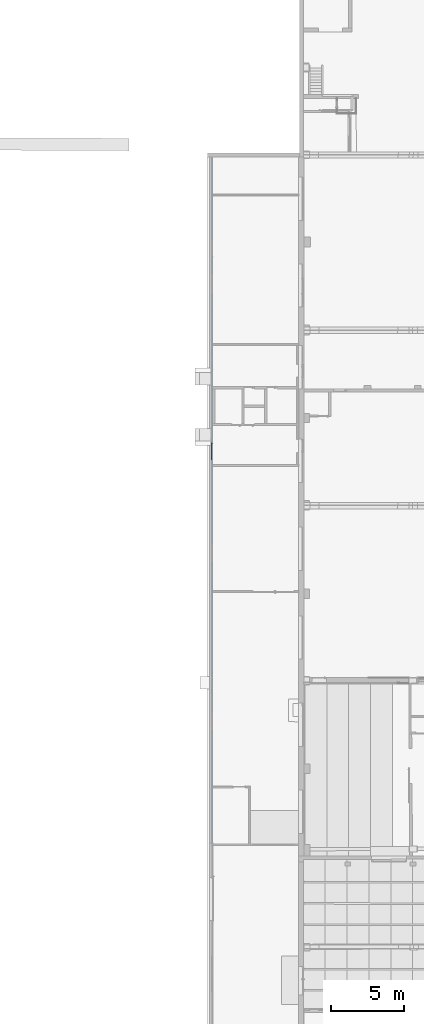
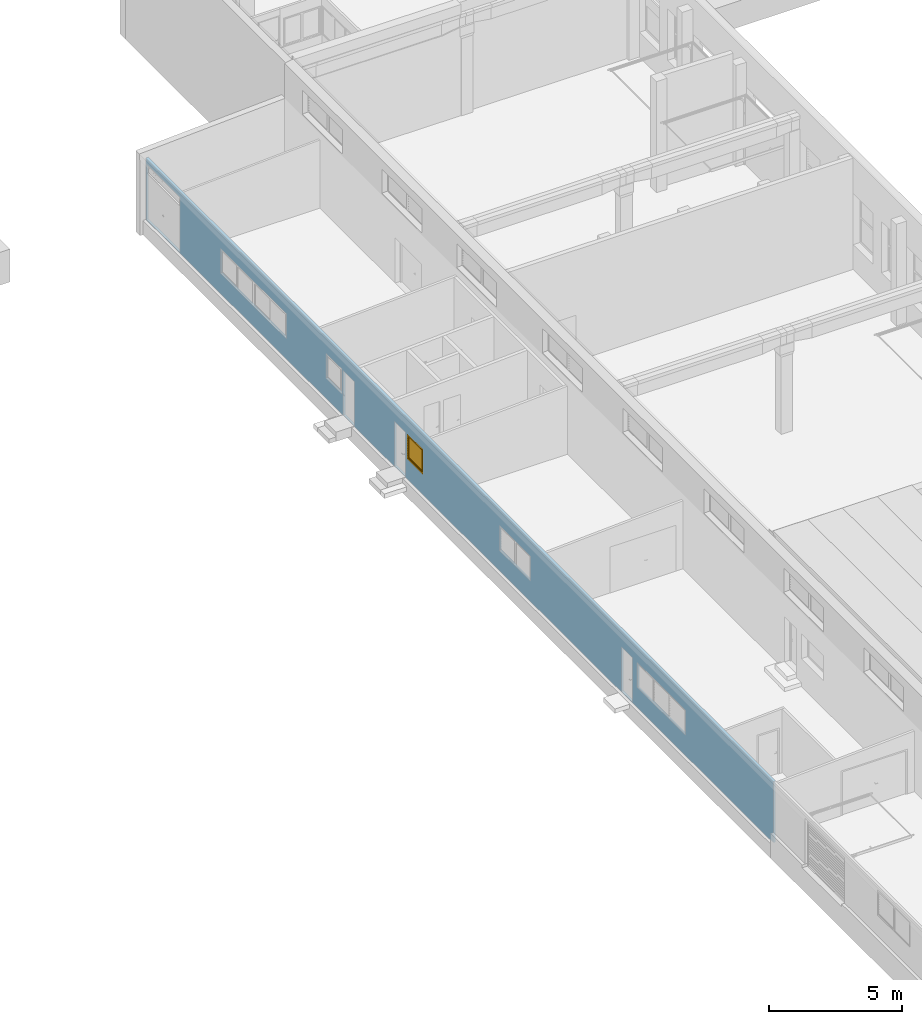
# One storey, part 103 of 301: 1 window, 9 openings, plus 1 element that does not belong to this part.
"""IFC2X3 building model written with IfcOpenShell, lengths in millimetres."""

import ifcopenshell
import ifcopenshell.guid

model = None  # the IFC model being written
_history = None  # IfcOwnerHistory: only IFC2X3 demands one
_inside = {}  # id of a spatial element -> (the spatial element, [elements in it])
_under = {}  # id of a project, library or spatial element -> (it, [spatial elements below it])
_declared = {}  # id of a project -> (the project, [libraries it declares])
_typed = {}  # id of a type object -> (the type object, [elements of that type])
_made_of = {}  # id of a material, layer set ... -> (it, [elements and type objects made of it])


def new_model(schema):
    """Start an empty IFC model of exactly this schema.

    Asked for "IFC4X3", IfcOpenShell would pick the latest addendum, in which some entities
    have other attributes; the version numbers below select the first issue.
    IFC2X3 requires an IfcOwnerHistory on every rooted entity: one is made here for all.
    """
    global model, _history
    if schema == "IFC4X3":
        model = ifcopenshell.file(schema_version=(4, 3, 0, 0))
    else:
        model = ifcopenshell.file(schema=schema)
    _inside.clear()
    _under.clear()
    _declared.clear()
    _typed.clear()
    _made_of.clear()
    _history = None
    if model.schema == "IFC2X3":
        org = make("IfcOrganization", Name="unknown")
        user = make(
            "IfcPersonAndOrganization",
            ThePerson=make("IfcPerson", FamilyName="unknown"),
            TheOrganization=org,
        )
        app = make(
            "IfcApplication",
            ApplicationDeveloper=org,
            Version="unknown",
            ApplicationFullName="unknown",
            ApplicationIdentifier="unknown",
        )
        _history = make(
            "IfcOwnerHistory",
            OwningUser=user,
            OwningApplication=app,
            ChangeAction="ADDED",
            CreationDate=0,
        )
    return model


def make(cls, **values):
    """One entity of the class cls with the attributes given. An attribute that is None is left unset."""
    return model.create_entity(
        cls, **{name: value for name, value in values.items() if value is not None}
    )


def entity(cls, *values):
    """Any entity or typed value of the class cls, its attributes in the order of the schema. None: left unset."""
    e = model.create_entity(cls)
    for i, value in enumerate(values):
        if value is not None:
            e[i] = value
    return e


def rooted(cls, **values):
    """An entity with a GlobalId (a new one), such as an element, a storey or a relation."""
    return make(cls, GlobalId=ifcopenshell.guid.new(), OwnerHistory=_history, **values)


def si_unit(unit_type, name, prefix=None):
    """IfcSIUnit, for example si_unit("LENGTHUNIT", "METRE", prefix="MILLI")."""
    return make("IfcSIUnit", UnitType=unit_type, Prefix=prefix, Name=name)


def converted_unit(unit_type, name, factor, base, dimensions=None, offset=None):
    """IfcConversionBasedUnit, such as the inch: factor (a typed value) times the base unit."""
    return make(
        "IfcConversionBasedUnit"
        if offset is None
        else "IfcConversionBasedUnitWithOffset",
        ConversionOffset=offset,
        Dimensions=None
        if dimensions is None
        else entity("IfcDimensionalExponents", *dimensions),
        UnitType=unit_type,
        Name=name,
        ConversionFactor=make(
            "IfcMeasureWithUnit", ValueComponent=factor, UnitComponent=base
        ),
    )


def derived_unit(unit_type, elements):
    """IfcDerivedUnit: a product of units, each with its exponent."""
    return make(
        "IfcDerivedUnit",
        Elements=[
            make("IfcDerivedUnitElement", Unit=unit, Exponent=power)
            for unit, power in elements
        ],
        UnitType=unit_type,
    )


def money_unit(currency):
    """IfcMonetaryUnit."""
    return make("IfcMonetaryUnit", Currency=currency)


def assignment(units):
    """IfcUnitAssignment: the units of a project."""
    return None if units is None else make("IfcUnitAssignment", Units=units)


def point(xyz):
    """IfcCartesianPoint."""
    return None if xyz is None else make("IfcCartesianPoint", Coordinates=xyz)


def direction(xyz):
    """IfcDirection."""
    return None if xyz is None else make("IfcDirection", DirectionRatios=xyz)


def frame(location, z_axis=None, x_axis=None):
    """IfcAxis2Placement3D, a coordinate frame: its origin and axes. An axis left out is left unset."""
    return make(
        "IfcAxis2Placement3D",
        Location=point(location),
        Axis=direction(z_axis),
        RefDirection=direction(x_axis),
    )


def origin_with_axes():
    """The frame at (0, 0, 0) with the z axis (0, 0, 1) and the x axis (1, 0, 0) written out."""
    return frame((0.0, 0.0, 0.0), z_axis=(0.0, 0.0, 1.0), x_axis=(1.0, 0.0, 0.0))


def place(relative_to, where):
    """IfcLocalPlacement: puts the frame where relative to a parent placement (None: the world)."""
    return make(
        "IfcLocalPlacement", PlacementRelTo=relative_to, RelativePlacement=where
    )


def context(
    kind, dimensions, precision=None, world=None, true_north=None, identifier=None
):
    """IfcGeometricRepresentationContext, for example the 3D "Model" context."""
    return make(
        "IfcGeometricRepresentationContext",
        ContextIdentifier=identifier,
        ContextType=kind,
        CoordinateSpaceDimension=dimensions,
        Precision=precision,
        WorldCoordinateSystem=world,
        TrueNorth=true_north,
    )


def subcontext(parent, identifier, kind, view, scale=None):
    """IfcGeometricRepresentationSubContext, for example "Body" below "Model"."""
    return make(
        "IfcGeometricRepresentationSubContext",
        ContextIdentifier=identifier,
        ContextType=kind,
        ParentContext=parent,
        TargetScale=scale,
        TargetView=view,
    )


def project(units=None, contexts=None):
    """IfcProject with its units and contexts."""
    return rooted(
        "IfcProject",
        Name="project",
        RepresentationContexts=contexts,
        UnitsInContext=assignment(units),
    )


def spatial(cls, under=None, at=None, **own):
    """A site, building, storey or space (cls), placed at a placement, below another one or the project."""
    s = rooted(cls, ObjectPlacement=at, **own)
    if under is not None:
        _under.setdefault(under.id(), (under, []))[1].append(s)
    return s


def faces_of(points, faces, orient=None, outer=None):
    """IfcFace entities. A face is a list of loops; a loop is a list of indices into points, from 0.

    orient and outer hold one flag for each loop. By default every Orientation is true, the
    first loop of a face is its IfcFaceOuterBound and the others are IfcFaceBound.
    """
    made = []
    for i, loops in enumerate(faces):
        bounds = []
        for j, loop in enumerate(loops):
            is_outer = j == 0 if outer is None else outer[i][j]
            bounds.append(
                make(
                    "IfcFaceOuterBound" if is_outer else "IfcFaceBound",
                    Bound=make("IfcPolyLoop", Polygon=[points[k] for k in loop]),
                    Orientation=True if orient is None else orient[i][j],
                )
            )
        made.append(make("IfcFace", Bounds=bounds))
    return made


def open_shell(faces, orient=None, outer=None):
    """The faces of one IfcOpenShell. surface_model builds it on its shared points."""
    return ("IfcOpenShell", faces, orient, outer)


def faceted_brep(points, faces, orient=None, outer=None, voids=None):
    """IfcFacetedBrep: a solid bounded by flat faces; with voids (closed shells), ...WithVoids."""
    shared = [point(p) for p in points]
    hull = make("IfcClosedShell", CfsFaces=faces_of(shared, faces, orient, outer))
    if voids is None:
        return make("IfcFacetedBrep", Outer=hull)
    return make(
        "IfcFacetedBrepWithVoids",
        Outer=hull,
        Voids=[
            make(cls, CfsFaces=faces_of(shared, fs, o, b)) for cls, fs, o, b in voids
        ],
    )


def surface_model(cls, points, shells):
    """IfcFaceBasedSurfaceModel or IfcShellBasedSurfaceModel (cls): surfaces that need not close."""
    shared = [point(p) for p in points]
    made = [make(c, CfsFaces=faces_of(shared, fs, o, b)) for c, fs, o, b in shells]
    if cls == "IfcFaceBasedSurfaceModel":
        return make(cls, FbsmFaces=made)
    return make(cls, SbsmBoundary=made)


def shape(context_of_items, identifier, shape_type, items):
    """IfcShapeRepresentation: the items that make up one representation, for example the "Body"."""
    return make(
        "IfcShapeRepresentation",
        ContextOfItems=context_of_items,
        RepresentationIdentifier=identifier,
        RepresentationType=shape_type,
        Items=items,
    )


def material(Name=None, Category=None):
    """IfcMaterial."""
    return make("IfcMaterial", Name=Name, Category=Category)


def made_of(thing, what):
    """Note that an element or type object is made of a material, layer set ...; save() writes the relation."""
    if what is not None:
        _made_of.setdefault(what.id(), (what, []))[1].append(thing)
    return thing


def type_object(cls, material=None, **own):
    """A type object (cls), such as IfcWallType, which elements share."""
    return made_of(rooted(cls, **own), material)


def element(
    cls,
    number,
    at=None,
    inside=None,
    cuts=None,
    type_object=None,
    material=None,
    context=None,
    identifier="Body",
    shape_type=None,
    held_by="IfcProductDefinitionShape",
    body=None,
    shapes=None,
    **own,
):
    """One element of the class cls, such as IfcWall. Its Tag is "e" and its number.

    at: its placement. inside: the storey or other place that contains it. cuts: it is an
    opening in that element (IfcRelVoidsElement). A single representation is given by context,
    identifier, shape_type and body (its items); several are given by shapes. held_by: the class
    of the entity that holds the representations. save() writes the other relations.
    """
    e = rooted(cls, Tag="e%d" % number, ObjectPlacement=at, **own)
    if body is not None:
        shapes = [shape(context, identifier, shape_type, body)]
    if shapes is not None:
        e.Representation = make(held_by, Representations=shapes)
    if inside is not None:
        _inside.setdefault(inside.id(), (inside, []))[1].append(e)
    if cuts is not None:
        rooted(
            "IfcRelVoidsElement", RelatingBuildingElement=cuts, RelatedOpeningElement=e
        )
    if type_object is not None:
        _typed.setdefault(type_object.id(), (type_object, []))[1].append(e)
    return made_of(e, material)


def fill(opening, filler):
    """IfcRelFillsElement: the door or window that sits in an opening."""
    return rooted(
        "IfcRelFillsElement",
        RelatingOpeningElement=opening,
        RelatedBuildingElement=filler,
    )


def aggregate(whole, parts):
    """IfcRelAggregates: a whole, such as a stair, and the parts it consists of."""
    return rooted("IfcRelAggregates", RelatingObject=whole, RelatedObjects=parts)


def save(model, path):
    """Write the relations noted so far, then the file.

    IfcRelAggregates (storeys below a building ...), IfcRelContainedInSpatialStructure (elements
    in a storey), IfcRelDefinesByType, IfcRelAssociatesMaterial and IfcRelDeclares: one each for
    every whole, place, type object, material and project.
    """
    for whole, parts in _under.values():
        aggregate(whole, parts)
    for where, things in _inside.values():
        rooted(
            "IfcRelContainedInSpatialStructure",
            RelatedElements=things,
            RelatingStructure=where,
        )
    for kind, things in _typed.values():
        rooted("IfcRelDefinesByType", RelatedObjects=things, RelatingType=kind)
    for what, things in _made_of.values():
        rooted("IfcRelAssociatesMaterial", RelatedObjects=things, RelatingMaterial=what)
    for by, libraries in _declared.values():
        rooted("IfcRelDeclares", RelatingContext=by, RelatedDefinitions=libraries)
    model.write(path)


model = new_model("IFC2X3")

# Units and contexts
model_context = context("Model", 3, precision=0.01, world=origin_with_axes(), true_north=direction((0.0, 1.0)))
body_context = subcontext(model_context, "Body", "Model", "MODEL_VIEW")
ifc_project = project(units=[si_unit("LENGTHUNIT", "METRE", prefix="MILLI"), si_unit("AREAUNIT", "SQUARE_METRE"), si_unit("VOLUMEUNIT", "CUBIC_METRE"), converted_unit("PLANEANGLEUNIT", "DEGREE", entity("IfcPlaneAngleMeasure", 0.0174532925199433), si_unit("PLANEANGLEUNIT", "RADIAN"), dimensions=[0, 0, 0, 0, 0, 0, 0]), money_unit("EUR"), converted_unit("TIMEUNIT", "Year", entity("IfcTimeMeasure", 31557600.0), si_unit("TIMEUNIT", "SECOND"), dimensions=[0, 0, 1, 0, 0, 0, 0]), si_unit("MASSUNIT", "GRAM", prefix="KILO"), si_unit("THERMODYNAMICTEMPERATUREUNIT", "DEGREE_CELSIUS"), si_unit("LUMINOUSINTENSITYUNIT", "LUMEN"), si_unit("ENERGYUNIT", "JOULE", prefix="MEGA"), derived_unit("THERMALCONDUCTANCEUNIT", [(si_unit("POWERUNIT", "WATT"), 1), (si_unit("LENGTHUNIT", "METRE"), -1), (si_unit("THERMODYNAMICTEMPERATUREUNIT", "KELVIN"), -1)]), derived_unit("SPECIFICHEATCAPACITYUNIT", [(si_unit("ENERGYUNIT", "JOULE"), 1), (si_unit("MASSUNIT", "GRAM", prefix="KILO"), -1), (si_unit("THERMODYNAMICTEMPERATUREUNIT", "KELVIN"), -1)]), derived_unit("MASSDENSITYUNIT", [(si_unit("MASSUNIT", "GRAM", prefix="KILO"), 1), (si_unit("VOLUMEUNIT", "CUBIC_METRE"), -1)])], contexts=[model_context])

# Site, building, storey
site_placement = place(None, frame((0.0, 0.0, 8650.0), z_axis=(0.0, 0.0, 1.0), x_axis=(1.0, 0.0, 0.0)))
site = spatial("IfcSite", under=ifc_project, at=site_placement, Name="43301:001:0844", CompositionType="ELEMENT")
building_placement = place(site_placement, origin_with_axes())
building = spatial("IfcBuilding", under=site, at=building_placement, Name="Kuressaare Ametikooli tuulikute mehaanikute õppekorpus", CompositionType="ELEMENT")
storey_placement = place(building_placement, origin_with_axes())
storey = spatial("IfcBuildingStorey", under=building, at=storey_placement, Name="1.korrus", CompositionType="ELEMENT", Elevation=0.0)

# Wall, openings, window
ifc_material = material(Name="GENEERILINE - KONSTRUKTRIOON")
wall_type = type_object("IfcWallType", Name="GENEERILINE - KONSTRUKTRIOON 100", PredefinedType="NOTDEFINED")
wall_placement = place(storey_placement, frame((81892.20130850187, 110588.890590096, -350.0), z_axis=(0.0, 0.0, 1.0), x_axis=(-7.655742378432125e-06, -0.9999999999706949, 0.0)))
wall = element("IfcWall", 1, at=wall_placement, inside=storey, type_object=wall_type, material=ifc_material, Name="VS-XX", context=body_context, shape_type="Brep", body=[
    faceted_brep([(269.999999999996, 0.0, 2816.26484691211), (269.999999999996, 99.99999999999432, 2821.680593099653), (269.999999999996, 99.99999999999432, 0.0), (269.999999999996, 0.0, 0.0), (47352.6273163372, 99.9999999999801, 2809.655716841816), (47352.6273163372, 0.0, 2804.239970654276), (47352.6273163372, 99.9999999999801, 0.0), (5854.778075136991, 99.9999999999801, 924.9999999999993), (10814.77807513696, 100.0000000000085, 924.9999999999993), (10814.77807513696, 100.0000000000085, 2075.0), (5854.778075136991, 99.9999999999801, 2075.0), (13763.52836301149, 99.99999999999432, 2075.0), (13763.52836301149, 99.99999999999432, 924.9999999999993), (14963.52836301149, 100.0000000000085, 924.9999999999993), (14963.52836301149, 100.0000000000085, 2075.0), (21051.12921387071, 99.99999999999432, 2075.0), (19851.12921387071, 99.99999999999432, 2075.0), (19851.12921387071, 99.99999999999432, 924.9999999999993), (21051.12921387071, 99.99999999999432, 924.9999999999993), (29133.95455333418, 99.99999999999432, 924.9999999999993), (29133.95455333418, 99.99999999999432, 2075.0), (26783.95455333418, 99.99999999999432, 2075.0), (26783.95455333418, 99.99999999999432, 924.9999999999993), (37120.04927739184, 99.9999999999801, 924.9999999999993), (40770.04927739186, 99.9999999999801, 924.9999999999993), (40770.04927739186, 99.9999999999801, 2075.0), (37120.04927739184, 99.9999999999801, 2075.0), (297.2449189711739, 99.99999999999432, 2580.0), (297.2449189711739, 99.99999999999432, 19.99999999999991), (2817.24491897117, 99.99999999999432, 19.99999999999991), (2817.24491897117, 99.99999999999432, 2580.0), (15909.77920143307, 100.0000000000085, 2070.0), (15059.77920143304, 99.99999999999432, 2070.0), (15059.77920143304, 99.99999999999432, 19.99999999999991), (15909.77920143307, 100.0000000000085, 19.99999999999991), (19754.87837544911, 99.9999999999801, 19.99999999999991), (19754.87837544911, 99.9999999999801, 2070.0), (18904.8783754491, 99.99999999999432, 2070.0), (18904.8783754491, 99.99999999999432, 19.99999999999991), (35946.63936298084, 99.9999999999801, 19.99999999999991), (36796.63936298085, 99.9999999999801, 19.99999999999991), (36796.63936298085, 99.9999999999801, 2070.0), (35946.63936298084, 99.9999999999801, 2070.0), (47352.6273163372, 0.0, 0.0), (10814.77807513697, 0.0, 2075.0), (10814.77807513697, 0.0, 924.9999999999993), (5854.778075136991, 0.0, 924.9999999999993), (5854.778075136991, 0.0, 2075.0), (13763.5283630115, 0.0, 2075.0), (14963.5283630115, 0.0, 2075.0), (14963.5283630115, 0.0, 924.9999999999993), (13763.5283630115, 0.0, 924.9999999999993), (19851.12921387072, 0.0, 924.9999999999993), (19851.12921387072, 0.0, 2075.0), (21051.12921387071, 0.0, 2075.0), (21051.12921387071, 0.0, 924.9999999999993), (29133.95455333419, 0.0, 924.9999999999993), (26783.95455333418, 0.0, 924.9999999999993), (26783.95455333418, 0.0, 2075.0), (29133.95455333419, 0.0, 2075.0), (40770.04927739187, 0.0, 2075.0), (40770.04927739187, 0.0, 924.9999999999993), (37120.04927739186, 0.0, 924.9999999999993), (37120.04927739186, 0.0, 2075.0), (297.2449189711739, 0.0, 2580.0), (2817.244918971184, 0.0, 2580.0), (2817.244918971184, 0.0, 19.99999999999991), (297.2449189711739, 0.0, 19.99999999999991), (15059.77920143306, 0.0, 19.99999999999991), (15059.77920143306, 0.0, 2070.0), (15909.77920143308, 0.0, 2070.0), (15909.77920143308, 0.0, 19.99999999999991), (19754.87837544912, 0.0, 19.99999999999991), (18904.8783754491, 0.0, 19.99999999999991), (18904.8783754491, 0.0, 2070.0), (19754.87837544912, 0.0, 2070.0), (36796.63936298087, 0.0, 2070.0), (36796.63936298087, 0.0, 19.99999999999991), (35946.63936298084, 0.0, 19.99999999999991), (35946.63936298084, 0.0, 2070.0)], [[[0, 1, 2, 3]], [[4, 1, 0, 5]], [[1, 4, 6, 2], [7, 8, 9, 10], [11, 12, 13, 14], [15, 16, 17, 18], [19, 20, 21, 22], [23, 24, 25, 26], [27, 28, 29, 30], [31, 32, 33, 34], [35, 36, 37, 38], [39, 40, 41, 42]], [[2, 6, 43, 3]], [[5, 0, 3, 43], [44, 45, 46, 47], [48, 49, 50, 51], [52, 53, 54, 55], [56, 57, 58, 59], [60, 61, 62, 63], [64, 65, 66, 67], [68, 69, 70, 71], [72, 73, 74, 75], [76, 77, 78, 79]], [[4, 5, 43, 6]], [[45, 8, 7, 46]], [[44, 9, 8, 45]], [[47, 10, 9, 44]], [[46, 7, 10, 47]], [[48, 51, 12, 11]], [[51, 50, 13, 12]], [[50, 49, 14, 13]], [[49, 48, 11, 14]], [[15, 54, 53, 16]], [[16, 53, 52, 17]], [[17, 52, 55, 18]], [[18, 55, 54, 15]], [[20, 19, 56, 59]], [[21, 20, 59, 58]], [[22, 21, 58, 57]], [[19, 22, 57, 56]], [[61, 24, 23, 62]], [[60, 25, 24, 61]], [[63, 26, 25, 60]], [[62, 23, 26, 63]], [[64, 67, 28, 27]], [[67, 66, 29, 28]], [[66, 65, 30, 29]], [[65, 64, 27, 30]], [[31, 70, 69, 32]], [[32, 69, 68, 33]], [[33, 68, 71, 34]], [[34, 71, 70, 31]], [[36, 35, 72, 75]], [[37, 36, 75, 74]], [[38, 37, 74, 73]], [[35, 38, 73, 72]], [[77, 40, 39, 78]], [[76, 41, 40, 77]], [[79, 42, 41, 76]], [[78, 39, 42, 79]]]),
])
opening_1_placement = place(wall_placement, frame((8334.778075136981, 0.0, 924.9999999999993), z_axis=(0.0, 0.0, 1.0), x_axis=(1.0, 0.0, 0.0)))
element("IfcOpeningElement", 2, at=opening_1_placement, cuts=wall, Name="VA-XX", context=body_context, shape_type="Brep", body=[
    faceted_brep([(2479.999999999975, 101.3625195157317, 1150.0), (2479.999999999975, 101.3625195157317, 0.0), (-2480.000000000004, 101.3625195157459, 0.0), (-2480.000000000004, 101.3625195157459, 1150.0), (2479.999999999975, -1.362519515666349, 1150.0), (2479.999999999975, -1.362519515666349, 0.0), (-2479.99999999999, -1.36251951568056, 0.0), (-2479.99999999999, -1.36251951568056, 1150.0)], [[[0, 1, 2, 3]], [[4, 5, 1, 0]], [[5, 6, 2, 1]], [[6, 7, 3, 2]], [[7, 4, 0, 3]], [[6, 5, 4, 7]]]),
])
opening_2_placement = place(wall_placement, frame((14363.52836301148, 0.0, 924.9999999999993), z_axis=(0.0, 0.0, 1.0), x_axis=(1.0, 0.0, 0.0)))
element("IfcOpeningElement", 3, at=opening_2_placement, cuts=wall, Name="VA-XX", context=body_context, shape_type="Brep", body=[
    faceted_brep([(600.0000000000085, 101.362519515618, 1150.0), (600.0000000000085, 101.362519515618, 0.0), (-599.9999999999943, 101.362519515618, 0.0), (-599.9999999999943, 101.362519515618, 1150.0), (600.0000000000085, -1.362519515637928, 1150.0), (600.0000000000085, -1.362519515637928, 0.0), (-599.9999999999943, -1.362519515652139, 0.0), (-599.9999999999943, -1.362519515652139, 1150.0)], [[[0, 1, 2, 3]], [[4, 5, 1, 0]], [[5, 6, 2, 1]], [[6, 7, 3, 2]], [[7, 4, 0, 3]], [[6, 5, 4, 7]]]),
])
opening_3_placement = place(wall_placement, frame((20451.1292138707, 0.0, 924.9999999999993), z_axis=(0.0, 0.0, 1.0), x_axis=(1.0, 0.0, 0.0)))
opening_3 = element("IfcOpeningElement", 4, at=opening_3_placement, cuts=wall, Name="VA-XX", context=body_context, shape_type="Brep", body=[
    faceted_brep([(599.9999999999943, 101.3625195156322, 1150.0), (599.9999999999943, 101.3625195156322, 0.0), (-599.9999999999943, 101.3625195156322, 0.0), (-599.9999999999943, 101.3625195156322, 1150.0), (600.0000000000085, -1.362519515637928, 1150.0), (600.0000000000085, -1.362519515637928, 0.0), (-599.9999999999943, -1.362519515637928, 0.0), (-599.9999999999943, -1.362519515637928, 1150.0)], [[[0, 1, 2, 3]], [[4, 5, 1, 0]], [[5, 6, 2, 1]], [[6, 7, 3, 2]], [[7, 4, 0, 3]], [[6, 5, 4, 7]]]),
])
opening_4_placement = place(wall_placement, frame((27958.95455333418, 0.0, 924.9999999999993), z_axis=(0.0, 0.0, 1.0), x_axis=(1.0, 0.0, 0.0)))
element("IfcOpeningElement", 5, at=opening_4_placement, cuts=wall, Name="VA-XX", context=body_context, shape_type="Brep", body=[
    faceted_brep([(1174.999999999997, 101.3625195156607, 1150.0), (1174.999999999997, 101.3625195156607, 0.0), (-1175.000000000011, 101.3625195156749, 0.0), (-1175.000000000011, 101.3625195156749, 1150.0), (1174.999999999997, -1.362519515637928, 1150.0), (1174.999999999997, -1.362519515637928, 0.0), (-1174.999999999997, -1.362519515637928, 0.0), (-1174.999999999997, -1.362519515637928, 1150.0)], [[[0, 1, 2, 3]], [[4, 5, 1, 0]], [[5, 6, 2, 1]], [[6, 7, 3, 2]], [[7, 4, 0, 3]], [[6, 5, 4, 7]]]),
])
opening_5_placement = place(wall_placement, frame((38945.04927739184, 0.0, 924.9999999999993), z_axis=(0.0, 0.0, 1.0), x_axis=(1.0, 0.0, 0.0)))
element("IfcOpeningElement", 6, at=opening_5_placement, cuts=wall, Name="VA-XX", context=body_context, shape_type="Brep", body=[
    faceted_brep([(1825.000000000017, 101.3625195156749, 1150.0), (1825.000000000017, 101.3625195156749, 0.0), (-1825.000000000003, 101.3625195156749, 0.0), (-1825.000000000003, 101.3625195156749, 1150.0), (1825.000000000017, -1.362519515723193, 1150.0), (1825.000000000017, -1.362519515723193, 0.0), (-1825.000000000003, -1.362519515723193, 0.0), (-1825.000000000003, -1.362519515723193, 1150.0)], [[[0, 1, 2, 3]], [[4, 5, 1, 0]], [[5, 6, 2, 1]], [[6, 7, 3, 2]], [[7, 4, 0, 3]], [[6, 5, 4, 7]]]),
])
opening_6_placement = place(wall_placement, frame((1557.244918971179, 0.0, 19.99999999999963), z_axis=(0.0, 0.0, 1.0), x_axis=(1.0, 0.0, 0.0)))
element("IfcOpeningElement", 7, at=opening_6_placement, cuts=wall, context=body_context, shape_type="Brep", body=[
    faceted_brep([(1259.999999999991, 101.3625195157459, 2560.0), (1259.999999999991, 101.3625195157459, 0.0), (-1260.000000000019, 101.3625195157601, 0.0), (-1260.000000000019, 101.3625195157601, 2560.0), (1259.999999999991, -1.36251951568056, 2560.0), (1259.999999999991, -1.36251951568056, 0.0), (-1260.000000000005, -1.36251951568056, 0.0), (-1260.000000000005, -1.36251951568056, 2560.0)], [[[0, 1, 2, 3]], [[4, 5, 1, 0]], [[5, 6, 2, 1]], [[6, 7, 3, 2]], [[7, 4, 0, 3]], [[6, 5, 4, 7]]]),
])
opening_7_placement = place(wall_placement, frame((15484.77920143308, 0.0, 19.99999999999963), z_axis=(0.0, 0.0, 1.0), x_axis=(1.0, 0.0, 0.0)))
element("IfcOpeningElement", 8, at=opening_7_placement, cuts=wall, context=body_context, shape_type="Brep", body=[
    faceted_brep([(424.9999999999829, 101.3625195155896, 2050.0), (424.9999999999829, 101.3625195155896, 0.0), (-425.0000000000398, 101.3625195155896, 0.0), (-425.0000000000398, 101.3625195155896, 2050.0), (424.9999999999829, -1.362519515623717, 2050.0), (424.9999999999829, -1.362519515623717, 0.0), (-425.0000000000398, -1.362519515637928, 0.0), (-425.0000000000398, -1.362519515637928, 2050.0)], [[[0, 1, 2, 3]], [[4, 5, 1, 0]], [[5, 6, 2, 1]], [[6, 7, 3, 2]], [[7, 4, 0, 3]], [[6, 5, 4, 7]]]),
])
opening_8_placement = place(wall_placement, frame((19329.8783754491, 0.0, 19.99999999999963), z_axis=(0.0, 0.0, 1.0), x_axis=(1.0, 0.0, 0.0)))
element("IfcOpeningElement", 9, at=opening_8_placement, cuts=wall, context=body_context, shape_type="Brep", body=[
    faceted_brep([(425.0000000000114, 101.3625195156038, 2050.0), (425.0000000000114, 101.3625195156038, 0.0), (-425.0000000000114, 101.3625195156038, 0.0), (-425.0000000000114, 101.3625195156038, 2050.0), (425.0000000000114, -1.362519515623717, 2050.0), (425.0000000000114, -1.362519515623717, 0.0), (-424.9999999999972, -1.362519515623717, 0.0), (-424.9999999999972, -1.362519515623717, 2050.0)], [[[0, 1, 2, 3]], [[4, 5, 1, 0]], [[5, 6, 2, 1]], [[6, 7, 3, 2]], [[7, 4, 0, 3]], [[6, 5, 4, 7]]]),
])
opening_9_placement = place(wall_placement, frame((36371.63936298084, 0.0, 19.99999999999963), z_axis=(0.0, 0.0, 1.0), x_axis=(1.0, 0.0, 0.0)))
element("IfcOpeningElement", 10, at=opening_9_placement, cuts=wall, context=body_context, shape_type="Brep", body=[
    faceted_brep([(425.0000000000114, 101.362519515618, 2050.0), (425.0000000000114, 101.362519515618, 0.0), (-425.0000000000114, 101.362519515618, 0.0), (-425.0000000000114, 101.362519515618, 2050.0), (425.0000000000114, -1.362519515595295, 2050.0), (425.0000000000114, -1.362519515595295, 0.0), (-424.9999999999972, -1.362519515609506, 0.0), (-424.9999999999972, -1.362519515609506, 2050.0)], [[[0, 1, 2, 3]], [[4, 5, 1, 0]], [[5, 6, 2, 1]], [[6, 7, 3, 2]], [[7, 4, 0, 3]], [[6, 5, 4, 7]]]),
])
window_style = type_object("IfcWindowStyle", Name="Window 27", ConstructionType="NOTDEFINED", OperationType="SINGLE_PANEL", ParameterTakesPrecedence=False, Sizeable=False)
window_placement = place(opening_3_placement, frame((-599.9999999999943, 0.0, 0.0), z_axis=(0.0, 0.0, 1.0), x_axis=(1.0, 0.0, 0.0)))
window = element("IfcWindow", 11, at=window_placement, inside=storey, type_object=window_style, Name="VA-XX", OverallHeight=1150.0, OverallWidth=1200.0, context=body_context, shape_type="SurfaceModel", body=[
    faceted_brep([(60.00000000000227, 50.00000000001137, 1080.0), (0.0, 49.99999999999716, 1080.0), (0.0, 0.0, 1080.0), (69.99999999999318, 0.0, 1080.0), (69.99999999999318, 15.00000000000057, 1080.0), (60.00000000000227, 14.99999999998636, 1080.0), (60.00000000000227, 50.00000000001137, 70.00000000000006), (0.0, 49.99999999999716, 70.00000000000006), (0.0, 0.0, 70.00000000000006), (69.99999999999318, 0.0, 70.00000000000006), (69.99999999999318, 15.00000000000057, 70.00000000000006), (60.00000000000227, 14.99999999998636, 70.00000000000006)], [[[0, 1, 2, 3, 4, 5]], [[6, 7, 1, 0]], [[1, 7, 8, 2]], [[2, 8, 9, 3]], [[4, 3, 9, 10]], [[10, 11, 5, 4]], [[5, 11, 6, 0]], [[11, 10, 9, 8, 7, 6]]]),
    faceted_brep([(1129.999999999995, 14.99999999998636, 1080.0), (1129.999999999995, 0.0, 1080.0), (1199.999999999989, 0.0, 1080.0), (1199.999999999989, 49.99999999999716, 1080.0), (1140.0, 49.99999999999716, 1080.0), (1140.0, 14.99999999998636, 1080.0), (1129.999999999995, 14.99999999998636, 70.00000000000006), (1129.999999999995, 0.0, 70.00000000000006), (1199.999999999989, 0.0, 70.00000000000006), (1199.999999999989, 49.99999999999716, 70.00000000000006), (1140.0, 49.99999999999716, 70.00000000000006), (1140.0, 14.99999999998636, 70.00000000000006)], [[[0, 1, 2, 3, 4, 5]], [[6, 7, 1, 0]], [[8, 2, 1, 7]], [[9, 3, 2, 8]], [[4, 3, 9, 10]], [[10, 11, 5, 4]], [[5, 11, 6, 0]], [[11, 10, 9, 8, 7, 6]]]),
    faceted_brep([(1129.999999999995, 14.99999999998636, 70.00000000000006), (1129.999999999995, 0.0, 70.00000000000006), (1199.999999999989, 0.0, 70.00000000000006), (1199.999999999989, 49.99999999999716, 70.00000000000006), (1140.0, 49.99999999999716, 70.00000000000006), (1140.0, 14.99999999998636, 70.00000000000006), (69.99999999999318, 15.00000000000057, 70.00000000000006), (69.99999999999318, 0.0, 70.00000000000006), (0.0, 0.0, 70.00000000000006), (0.0, 0.0, 0.0), (1199.999999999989, 0.0, 0.0), (1199.999999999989, 49.99999999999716, 0.0), (60.00000000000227, 50.00000000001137, 60.00000000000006), (1140.0, 49.99999999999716, 60.00000000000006), (0.0, 49.99999999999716, 0.0), (0.0, 49.99999999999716, 70.00000000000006), (60.00000000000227, 50.00000000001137, 70.00000000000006), (1140.0, 14.99999999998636, 60.00000000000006), (60.00000000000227, 14.99999999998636, 60.00000000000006), (60.00000000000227, 14.99999999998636, 70.00000000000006)], [[[0, 1, 2, 3, 4, 5]], [[6, 7, 1, 0]], [[8, 9, 10, 2, 1, 7]], [[11, 3, 2, 10]], [[12, 13, 4, 3, 11, 14, 15, 16]], [[13, 17, 5, 4]], [[5, 17, 18, 19, 6, 0]], [[19, 16, 15, 8, 7, 6]], [[15, 14, 9, 8]], [[14, 11, 10, 9]], [[12, 18, 17, 13]], [[19, 18, 12, 16]]]),
    faceted_brep([(60.00000000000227, 50.00000000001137, 1080.0), (0.0, 49.99999999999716, 1080.0), (0.0, 49.99999999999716, 1150.0), (1199.999999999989, 49.99999999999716, 1150.0), (1199.999999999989, 49.99999999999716, 1080.0), (1140.0, 49.99999999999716, 1080.0), (1140.0, 49.99999999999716, 1090.0), (60.00000000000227, 50.00000000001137, 1090.0), (60.00000000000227, 14.99999999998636, 1080.0), (69.99999999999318, 15.00000000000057, 1080.0), (69.99999999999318, 0.0, 1080.0), (0.0, 0.0, 1080.0), (0.0, 0.0, 1150.0), (1199.999999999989, 0.0, 1150.0), (1199.999999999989, 0.0, 1080.0), (1140.0, 14.99999999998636, 1080.0), (1129.999999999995, 0.0, 1080.0), (1129.999999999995, 14.99999999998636, 1080.0), (1140.0, 14.99999999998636, 1090.0), (60.00000000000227, 14.99999999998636, 1090.0)], [[[0, 1, 2, 3, 4, 5, 6, 7]], [[8, 9, 10, 11, 1, 0]], [[2, 1, 11, 12]], [[3, 2, 12, 13]], [[4, 3, 13, 14]], [[15, 5, 4, 14, 16, 17]], [[5, 15, 18, 6]], [[6, 18, 19, 7]], [[7, 19, 8, 0]], [[17, 9, 8, 19, 18, 15]], [[17, 16, 10, 9]], [[14, 13, 12, 11, 10, 16]]]),
    faceted_brep([(68.9999999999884, 64.99999999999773, 602.0), (70.33974596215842, 64.99999999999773, 606.9999999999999), (70.33974596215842, 76.99999999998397, 606.9999999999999), (68.9999999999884, 76.99999999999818, 602.0), (68.9999999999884, 64.99999999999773, 547.9999999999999), (70.33974596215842, 64.99999999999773, 542.9999999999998), (73.99999999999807, 64.99999999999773, 539.3397459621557), (78.99999999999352, 64.99999999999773, 537.9999999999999), (90.99999999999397, 64.99999999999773, 537.9999999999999), (96.00000000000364, 64.99999999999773, 539.3397459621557), (99.66025403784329, 64.99999999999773, 542.9999999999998), (100.9999999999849, 64.99999999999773, 547.9999999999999), (100.9999999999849, 64.99999999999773, 602.0), (99.66025403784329, 64.99999999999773, 606.9999999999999), (96.00000000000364, 64.99999999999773, 610.6602540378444), (90.99999999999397, 64.99999999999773, 612.0), (78.99999999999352, 64.99999999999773, 612.0), (73.99999999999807, 64.99999999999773, 610.6602540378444), (73.99999999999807, 76.99999999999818, 610.6602540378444), (79.00000000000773, 76.99999999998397, 612.0), (90.99999999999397, 76.99999999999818, 612.0), (96.00000000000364, 76.99999999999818, 610.6602540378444), (99.66025403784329, 76.99999999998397, 606.9999999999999), (100.9999999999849, 76.99999999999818, 602.0), (100.9999999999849, 76.99999999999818, 547.9999999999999), (99.66025403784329, 76.99999999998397, 542.9999999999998), (96.00000000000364, 76.99999999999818, 539.3397459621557), (90.99999999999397, 76.99999999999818, 537.9999999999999), (79.00000000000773, 76.99999999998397, 537.9999999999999), (73.99999999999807, 76.99999999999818, 539.3397459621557), (70.33974596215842, 76.99999999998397, 542.9999999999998), (68.9999999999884, 76.99999999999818, 547.9999999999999)], [[[0, 1, 2, 3]], [[0, 4, 5, 6, 7, 8, 9, 10, 11, 12, 13, 14, 15, 16, 17, 1]], [[1, 17, 18, 2]], [[3, 2, 18, 19, 20, 21, 22, 23, 24, 25, 26, 27, 28, 29, 30, 31]], [[4, 0, 3, 31]], [[5, 4, 31, 30]], [[6, 5, 30, 29]], [[7, 6, 29, 28]], [[8, 7, 28, 27]], [[9, 8, 27, 26]], [[10, 9, 26, 25]], [[11, 10, 25, 24]], [[12, 11, 24, 23]], [[13, 12, 23, 22]], [[14, 13, 22, 21]], [[15, 14, 21, 20]], [[16, 15, 20, 19]], [[17, 16, 19, 18]]]),
    faceted_brep([(84.99999999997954, 76.99999999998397, 588.4999999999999), (91.74999999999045, 76.99999999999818, 586.69134295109), (91.74999999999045, 100.9999999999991, 586.69134295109), (84.99999999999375, 100.9999999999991, 588.4999999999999), (78.24999999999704, 76.99999999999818, 586.69134295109), (73.30865704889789, 76.99999999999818, 581.7500000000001), (71.50000000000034, 76.99999999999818, 574.9999999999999), (73.30865704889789, 76.99999999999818, 568.25), (78.24999999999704, 76.99999999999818, 563.3086570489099), (84.99999999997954, 76.99999999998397, 561.5), (91.74999999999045, 76.99999999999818, 563.3086570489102), (96.69134295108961, 76.99999999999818, 568.25), (98.49999999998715, 76.99999999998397, 574.9999999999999), (96.69134295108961, 76.99999999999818, 581.7500000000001), (96.6913429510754, 100.9999999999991, 581.7500000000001), (98.49999999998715, 100.9999999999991, 574.9999999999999), (96.6913429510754, 100.9999999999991, 568.25), (91.74999999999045, 100.9999999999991, 563.3086570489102), (84.99999999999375, 100.9999999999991, 561.5), (78.24999999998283, 100.9999999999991, 563.3086570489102), (73.30865704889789, 100.9999999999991, 568.25), (71.49999999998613, 100.9999999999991, 574.9999999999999), (73.30865704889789, 100.9999999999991, 581.7500000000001), (78.24999999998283, 100.9999999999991, 586.69134295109)], [[[0, 1, 2, 3]], [[0, 4, 5, 6, 7, 8, 9, 10, 11, 12, 13, 1]], [[1, 13, 14, 2]], [[3, 2, 14, 15, 16, 17, 18, 19, 20, 21, 22, 23]], [[4, 0, 3, 23]], [[5, 4, 23, 22]], [[6, 5, 22, 21]], [[7, 6, 21, 20]], [[8, 7, 20, 19]], [[9, 8, 19, 18]], [[10, 9, 18, 17]], [[11, 10, 17, 16]], [[12, 11, 16, 15]], [[13, 12, 15, 14]]]),
    faceted_brep([(73.49999999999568, 100.9999999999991, 468.0000000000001), (84.99999999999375, 100.9999999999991, 464.9999999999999), (96.49999999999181, 101.0000000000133, 468.0000000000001), (98.49999999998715, 100.9999999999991, 471.0), (98.49999999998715, 100.9999999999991, 574.9999999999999), (96.6913429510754, 100.9999999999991, 581.7500000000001), (91.74999999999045, 100.9999999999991, 586.69134295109), (84.99999999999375, 100.9999999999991, 588.4999999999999), (78.24999999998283, 100.9999999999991, 586.69134295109), (73.30865704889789, 100.9999999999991, 581.7500000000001), (71.49999999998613, 100.9999999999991, 574.9999999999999), (71.49999999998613, 100.9999999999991, 471.0), (73.49999993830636, 108.9999999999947, 468.0000001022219), (84.99999996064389, 108.9999999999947, 464.9999996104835), (96.49999998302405, 108.9999999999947, 468.0000001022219), (98.50000031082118, 108.9999999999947, 470.9999996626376), (98.50000031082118, 108.9999999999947, 574.9999999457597), (96.6913429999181, 108.9999999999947, 581.749999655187), (91.74999967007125, 108.9999999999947, 586.6913429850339), (84.99999996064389, 108.9999999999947, 588.500000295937), (78.25000025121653, 108.9999999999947, 586.6913429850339), (73.30865692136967, 108.9999999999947, 581.749999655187), (71.49999961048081, 108.9999999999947, 574.9999999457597), (71.49999961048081, 108.9999999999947, 470.9999996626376), (75.36253746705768, 111.9999995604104, 470.6145196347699), (84.9999999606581, 111.9999995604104, 468.1003985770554), (94.63746245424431, 111.9999995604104, 470.6145196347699), (95.50000075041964, 111.9999995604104, 471.9083266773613), (95.50000075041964, 111.9999995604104, 574.6050424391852), (94.00161703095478, 111.9999995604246, 580.1970855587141), (90.19708557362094, 111.9999995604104, 584.001617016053), (84.9999999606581, 111.9999995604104, 585.3941721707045), (79.80291434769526, 111.9999995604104, 584.001617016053), (75.99838289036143, 111.9999995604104, 580.1970855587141), (74.49999917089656, 111.9999995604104, 574.6050424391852), (74.49999917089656, 111.9999995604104, 471.9083266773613)], [[[0, 1, 2, 3, 4, 5, 6, 7, 8, 9, 10, 11]], [[1, 0, 12, 13]], [[2, 1, 13, 14]], [[3, 2, 14, 15]], [[4, 3, 15, 16]], [[5, 4, 16, 17]], [[6, 5, 17, 18]], [[7, 6, 18, 19]], [[8, 7, 19, 20]], [[9, 8, 20, 21]], [[10, 9, 21, 22]], [[11, 10, 22, 23]], [[0, 11, 23, 12]], [[13, 12, 24, 25]], [[14, 13, 25, 26]], [[15, 14, 26, 27]], [[16, 15, 27, 28]], [[17, 16, 28, 29]], [[18, 17, 29, 30]], [[19, 18, 30, 31]], [[20, 19, 31, 32]], [[21, 20, 32, 33]], [[22, 21, 33, 34]], [[23, 22, 34, 35]], [[12, 23, 35, 24]], [[26, 25, 24, 35, 34, 33, 32, 31, 30, 29, 28, 27]]]),
    faceted_brep([(109.9999999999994, 15.00000000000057, 1040.0), (109.9999999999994, 64.99999999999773, 1040.0), (59.99999999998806, 64.99999999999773, 1040.0), (60.00000000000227, 14.99999999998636, 1040.0), (109.9999999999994, 15.00000000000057, 110.0), (109.9999999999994, 64.99999999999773, 110.0), (59.99999999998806, 64.99999999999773, 110.0), (60.00000000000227, 14.99999999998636, 110.0)], [[[0, 1, 2, 3]], [[4, 5, 1, 0]], [[1, 5, 6, 2]], [[3, 2, 6, 7]], [[0, 3, 7, 4]], [[7, 6, 5, 4]]]),
    faceted_brep([(1090.000000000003, 14.99999999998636, 110.0), (1090.000000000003, 64.99999999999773, 110.0), (1140.0, 64.99999999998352, 110.0), (1140.0, 14.99999999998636, 110.0), (1090.000000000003, 14.99999999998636, 1040.0), (1090.000000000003, 64.99999999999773, 1040.0), (1140.0, 64.99999999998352, 1040.0), (1140.0, 14.99999999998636, 1040.0)], [[[0, 1, 2, 3]], [[4, 5, 1, 0]], [[1, 5, 6, 2]], [[3, 2, 6, 7]], [[0, 3, 7, 4]], [[7, 6, 5, 4]]]),
    faceted_brep([(1140.0, 14.99999999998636, 60.00000000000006), (1140.0, 64.99999999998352, 60.00000000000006), (1140.0, 64.99999999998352, 110.0), (1140.0, 14.99999999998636, 110.0), (60.00000000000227, 14.99999999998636, 60.00000000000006), (59.99999999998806, 64.99999999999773, 60.00000000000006), (59.99999999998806, 64.99999999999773, 110.0), (109.9999999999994, 64.99999999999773, 110.0), (1090.000000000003, 64.99999999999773, 110.0), (1090.000000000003, 14.99999999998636, 110.0), (109.9999999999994, 15.00000000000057, 110.0), (60.00000000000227, 14.99999999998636, 110.0)], [[[0, 1, 2, 3]], [[4, 5, 1, 0]], [[1, 5, 6, 7, 8, 2]], [[3, 2, 8, 9]], [[0, 3, 9, 10, 11, 4]], [[11, 6, 5, 4]], [[10, 7, 6, 11]], [[9, 8, 7, 10]]]),
    faceted_brep([(60.00000000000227, 14.99999999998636, 1090.0), (59.99999999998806, 64.99999999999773, 1090.0), (59.99999999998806, 64.99999999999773, 1040.0), (60.00000000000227, 14.99999999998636, 1040.0), (1140.0, 14.99999999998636, 1090.0), (1140.0, 64.99999999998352, 1090.0), (1140.0, 64.99999999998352, 1040.0), (1090.000000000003, 64.99999999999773, 1040.0), (109.9999999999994, 64.99999999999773, 1040.0), (109.9999999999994, 15.00000000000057, 1040.0), (1090.000000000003, 14.99999999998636, 1040.0), (1140.0, 14.99999999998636, 1040.0)], [[[0, 1, 2, 3]], [[4, 5, 1, 0]], [[1, 5, 6, 7, 8, 2]], [[3, 2, 8, 9]], [[0, 3, 9, 10, 11, 4]], [[11, 6, 5, 4]], [[10, 7, 6, 11]], [[9, 8, 7, 10]]]),
    surface_model("IfcShellBasedSurfaceModel", [(109.9999999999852, 30.00000000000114, 110.0), (1090.000000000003, 29.99999999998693, 110.0), (1090.000000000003, 29.99999999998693, 1040.0), (109.9999999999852, 30.00000000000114, 1040.0)], [open_shell([[[0, 1, 2, 3]]])]),
    surface_model("IfcShellBasedSurfaceModel", [(109.9999999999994, 49.99999999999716, 110.0), (109.9999999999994, 49.99999999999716, 1040.0), (1090.000000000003, 49.99999999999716, 1040.0), (1090.000000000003, 49.99999999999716, 110.0)], [open_shell([[[0, 1, 2, 3]]])]),
])
fill(opening_3, window)

save(model, "model.ifc")
